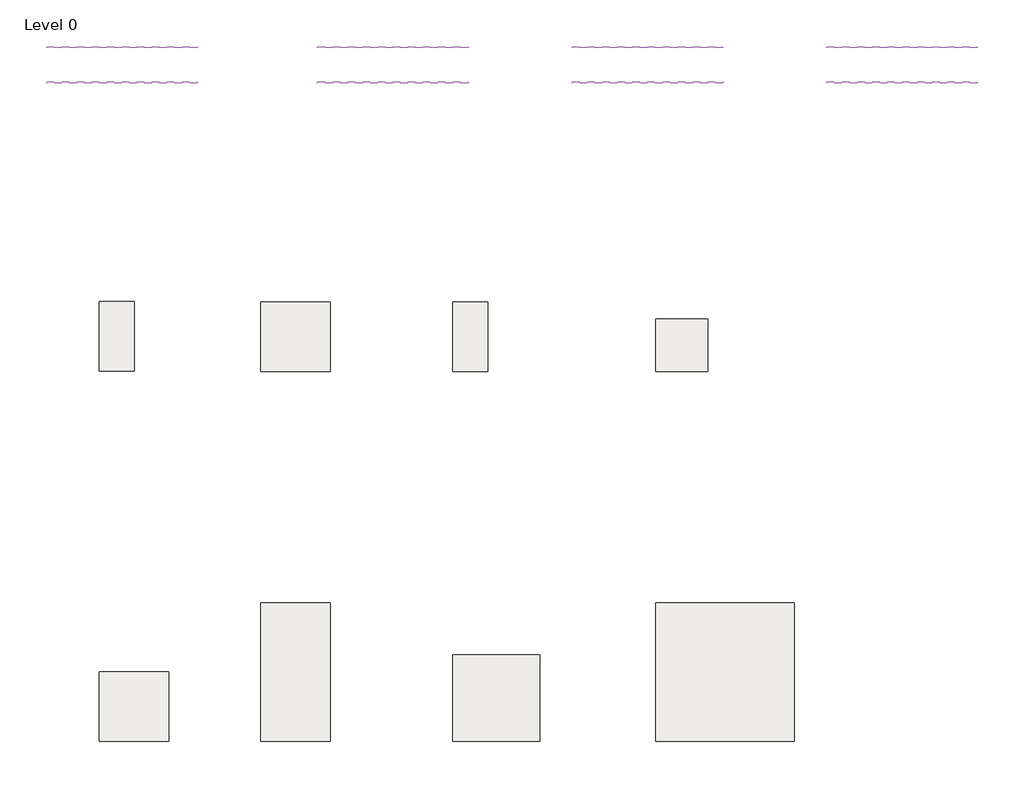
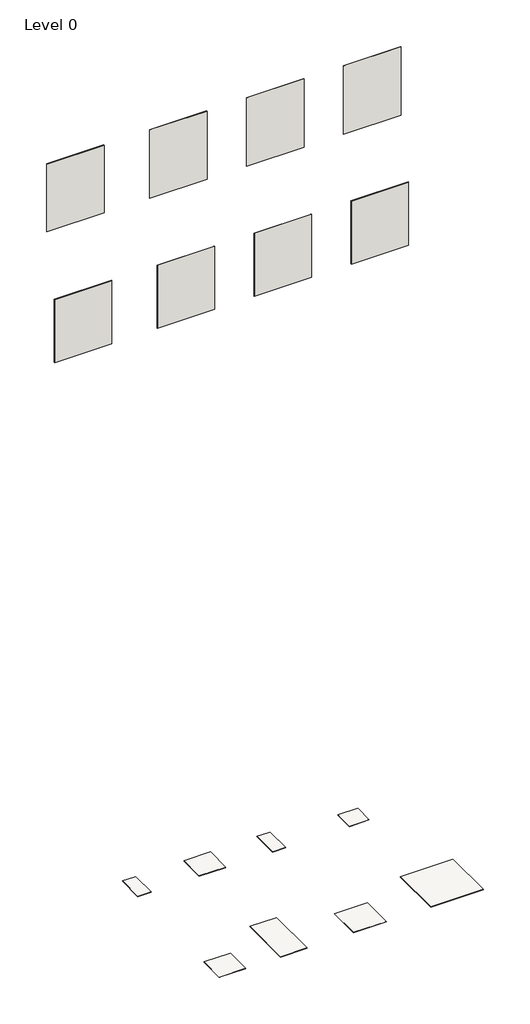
# One storey: 8 slabs, 8 walls.
"""IFC4 building model written with IfcOpenShell, lengths in millimetres."""

from ifc_helpers import new_model, si_unit, frame, origin, place, context, project, spatial, polyline, outline, extrude, element, save

model = new_model("IFC4")

# Units and contexts
model_context = context("Model", 3, world=origin())
ifc_project = project(units=[si_unit("LENGTHUNIT", "METRE", prefix="MILLI")], contexts=[model_context])

# Site, building, storey
site = spatial("IfcSite", under=ifc_project)
building = spatial("IfcBuilding", under=site)
storey = spatial("IfcBuildingStorey", under=building, Name="Level 0", Elevation=0.0)

# Slabs
placement = place(None, origin())
element("IfcSlab", 1, ObjectType="Floor_Tiles_Refin-Creos-Cookie-30x60 ND01", at=placement, inside=storey, context=model_context, shape_type="SweptSolid", body=[
    extrude(outline(polyline([(6674.3752062, 5939.4623743), (6674.3752062, 5339.4623743), (6374.3752062, 5339.4623743), (6374.3752062, 5939.4623743), (6674.3752062, 5939.4623743)])), frame((0.0, 0.0, -10.0), z_axis=(0.0, 0.0, 1.0), x_axis=(1.0, 0.0, 0.0)), (0.0, 0.0, 1.0), 10.0),
])
element("IfcSlab", 2, ObjectType="Floor_Tiles_Refin-Creos-Cookie-60x60 NA52", at=placement, inside=storey, context=model_context, shape_type="SweptSolid", body=[
    extrude(outline(polyline([(8367.3924055, 5938.4192064), (8367.3924055, 5338.4192064), (7767.3924055, 5338.4192064), (7767.3924055, 5938.4192064), (8367.3924055, 5938.4192064)])), frame((0.0, 0.0, -10.0), z_axis=(0.0, 0.0, 1.0), x_axis=(1.0, 0.0, 0.0)), (0.0, 0.0, 1.0), 10.0),
])
element("IfcSlab", 3, ObjectType="Floor_Tiles_Refin-Creos-Cookie-Soft-30x60 ND02", at=placement, inside=storey, context=model_context, shape_type="SweptSolid", body=[
    extrude(outline(polyline([(9727.1861419, 5938.4192064), (9727.1861419, 5338.4192064), (9427.1861419, 5338.4192064), (9427.1861419, 5938.4192064), (9727.1861419, 5938.4192064)])), frame((0.0, 0.0, -10.0), z_axis=(0.0, 0.0, 1.0), x_axis=(1.0, 0.0, 0.0)), (0.0, 0.0, 1.0), 10.0),
])
element("IfcSlab", 4, ObjectType="Floor_Tiles_Refin-Creos-Cookie-Soft-60x60 NA53", at=placement, inside=storey, context=model_context, shape_type="SweptSolid", body=[
    extrude(outline(polyline([(6974.3752062, 2739.4623743), (6974.3752062, 2139.4623743), (6374.3752062, 2139.4623743), (6374.3752062, 2739.4623743), (6974.3752062, 2739.4623743)])), frame((0.0, 0.0, -10.0), z_axis=(0.0, 0.0, 1.0), x_axis=(1.0, 0.0, 0.0)), (0.0, 0.0, 1.0), 10.0),
])
element("IfcSlab", 5, ObjectType="Floor_Tiles_Refin-Creos-Cookie-Soft-75x75 NU52", at=placement, inside=storey, context=model_context, shape_type="SweptSolid", body=[
    extrude(outline(polyline([(10177.1861419, 2889.4623743), (10177.1861419, 2139.4623743), (9427.1861419, 2139.4623743), (9427.1861419, 2889.4623743), (10177.1861419, 2889.4623743)])), frame((0.0, 0.0, -10.0), z_axis=(0.0, 0.0, 1.0), x_axis=(1.0, 0.0, 0.0)), (0.0, 0.0, 1.0), 10.0),
])
element("IfcSlab", 6, ObjectType="Floor_Tiles_Refin-Creos-Cookie-Soft-45x45 ND68", at=placement, inside=storey, context=model_context, shape_type="SweptSolid", body=[
    extrude(outline(polyline([(11627.1861419, 5788.4192064), (11627.1861419, 5338.4192064), (11177.1861419, 5338.4192064), (11177.1861419, 5788.4192064), (11627.1861419, 5788.4192064)])), frame((0.0, 0.0, -10.5), z_axis=(0.0, 0.0, 1.0), x_axis=(1.0, 0.0, 0.0)), (0.0, 0.0, 1.0), 10.5),
])
element("IfcSlab", 7, ObjectType="Floor_Tiles_Refin-Creos-Cookie-Soft-60x120 NA64", at=placement, inside=storey, context=model_context, shape_type="SweptSolid", body=[
    extrude(outline(polyline([(8367.3924055, 3339.4623743), (8367.3924055, 2139.4623743), (7767.3924055, 2139.4623743), (7767.3924055, 3339.4623743), (8367.3924055, 3339.4623743)])), frame((0.0, 0.0, -10.0), z_axis=(0.0, 0.0, 1.0), x_axis=(1.0, 0.0, 0.0)), (0.0, 0.0, 1.0), 10.0),
])
element("IfcSlab", 8, ObjectType="Floor_Tiles_Refin-Creos-Cookie-Soft-120x120 MK22", at=placement, inside=storey, context=model_context, shape_type="SweptSolid", body=[
    extrude(outline(polyline([(12377.1861419, 3339.4623743), (12377.1861419, 2139.4623743), (11177.1861419, 2139.4623743), (11177.1861419, 3339.4623743), (12377.1861419, 3339.4623743)])), frame((0.0, 0.0, -10.0), z_axis=(0.0, 0.0, 1.0), x_axis=(1.0, 0.0, 0.0)), (0.0, 0.0, 1.0), 10.0),
])

# Walls
element("IfcWall", 9, ObjectType="Wall_Tiles_Refin-Creos-Cookie-60x60 NA52", at=placement, inside=storey, context=model_context, shape_type="SweptSolid", body=[
    extrude(outline(polyline([(9557.3752062, 8132.3838631), (8257.3752062, 8132.3838631), (8257.3752062, 8142.3838631), (9557.3752062, 8142.3838631), (9557.3752062, 8132.3838631)])), frame((0.0, 0.0, 14387.6770443), z_axis=(0.0, 0.0, 1.0), x_axis=(1.0, 0.0, 0.0)), (0.0, 0.0, 1.0), 1641.7417352),
])
element("IfcWall", 10, ObjectType="Wall_Tiles_Refin-Creos-Cookie-Soft-30x60 ND02", at=placement, inside=storey, context=model_context, shape_type="SweptSolid", body=[
    extrude(outline(polyline([(11757.3752062, 8132.3838631), (10457.3752062, 8132.3838631), (10457.3752062, 8142.3838631), (11757.3752062, 8142.3838631), (11757.3752062, 8132.3838631)])), frame((0.0, 0.0, 14387.6770443), z_axis=(0.0, 0.0, 1.0), x_axis=(1.0, 0.0, 0.0)), (0.0, 0.0, 1.0), 1641.7417352),
])
element("IfcWall", 11, ObjectType="Wall_Tiles_Refin-Creos-Cookie-30x60 ND01", at=placement, inside=storey, context=model_context, shape_type="SweptSolid", body=[
    extrude(outline(polyline([(7217.3752062, 8132.3838631), (5917.3752062, 8132.3838631), (5917.3752062, 8142.3838631), (7217.3752062, 8142.3838631), (7217.3752062, 8132.3838631)])), frame((0.0, 0.0, 14403.7267346), z_axis=(0.0, 0.0, 1.0), x_axis=(1.0, 0.0, 0.0)), (0.0, 0.0, 1.0), 1625.692045),
])
element("IfcWall", 12, ObjectType="Wall_Tiles_Refin-Creos-Cookie-Soft-60x60 NA53", at=placement, inside=storey, context=model_context, shape_type="SweptSolid", body=[
    extrude(outline(polyline([(7217.3752062, 7827.3838631), (5917.3752062, 7827.3838631), (5917.3752062, 7837.3838631), (7217.3752062, 7837.3838631), (7217.3752062, 7827.3838631)])), frame((0.0, 0.0, 11452.5436262), z_axis=(0.0, 0.0, 1.0), x_axis=(1.0, 0.0, 0.0)), (0.0, 0.0, 1.0), 1513.1985566),
])
element("IfcWall", 13, ObjectType="Wall_Tiles_Refin-Creos-Cookie-Soft-60x120 NA64", at=placement, inside=storey, context=model_context, shape_type="SweptSolid", body=[
    extrude(outline(polyline([(9557.3752062, 7827.3838631), (8257.3752062, 7827.3838631), (8257.3752062, 7837.3838631), (9557.3752062, 7837.3838631), (9557.3752062, 7827.3838631)])), frame((0.0, 0.0, 11452.5436262), z_axis=(0.0, 0.0, 1.0), x_axis=(1.0, 0.0, 0.0)), (0.0, 0.0, 1.0), 1513.1985566),
])
element("IfcWall", 14, ObjectType="Wall_Tiles_Refin-Creos-Cookie-Soft-75x75 NU52", at=placement, inside=storey, context=model_context, shape_type="SweptSolid", body=[
    extrude(outline(polyline([(11757.3752062, 7827.3838631), (10457.3752062, 7827.3838631), (10457.3752062, 7837.3838631), (11757.3752062, 7837.3838631), (11757.3752062, 7827.3838631)])), frame((0.0, 0.0, 11452.5436262), z_axis=(0.0, 0.0, 1.0), x_axis=(1.0, 0.0, 0.0)), (0.0, 0.0, 1.0), 1513.1985566),
])
element("IfcWall", 15, ObjectType="Wall_Tiles_Refin-Creos-Cookie-Soft-45x45 ND68", at=placement, inside=storey, context=model_context, shape_type="SweptSolid", body=[
    extrude(outline(polyline([(13957.3752062, 8132.1338631), (12657.3752062, 8132.1338631), (12657.3752062, 8142.6338631), (13957.3752062, 8142.6338631), (13957.3752062, 8132.1338631)])), frame((0.0, 0.0, 14387.6770443), z_axis=(0.0, 0.0, 1.0), x_axis=(1.0, 0.0, 0.0)), (0.0, 0.0, 1.0), 1641.7417352),
])
element("IfcWall", 16, ObjectType="Wall_Tiles_Refin-Creos-Cookie-Soft-120x120 MK22", at=placement, inside=storey, context=model_context, shape_type="SweptSolid", body=[
    extrude(outline(polyline([(13957.3752062, 7827.3838631), (12657.3752062, 7827.3838631), (12657.3752062, 7837.3838631), (13957.3752062, 7837.3838631), (13957.3752062, 7827.3838631)])), frame((0.0, 0.0, 11452.5436262), z_axis=(0.0, 0.0, 1.0), x_axis=(1.0, 0.0, 0.0)), (0.0, 0.0, 1.0), 1513.1985566),
])

save(model, "model.ifc")
